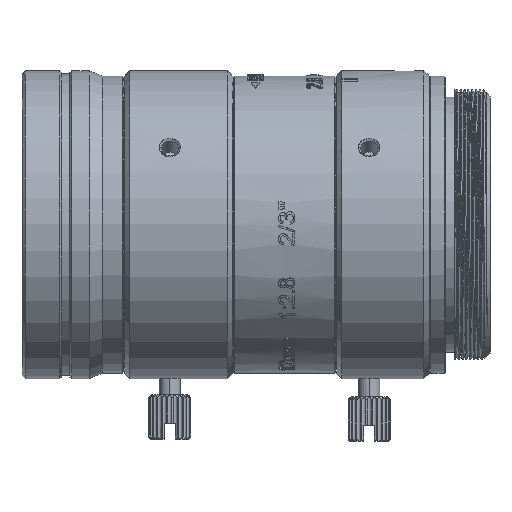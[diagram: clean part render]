
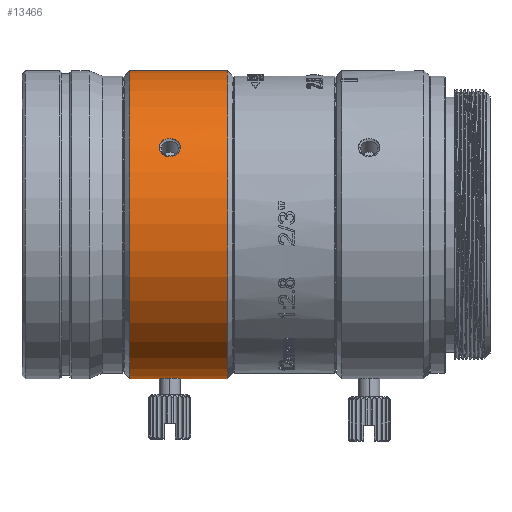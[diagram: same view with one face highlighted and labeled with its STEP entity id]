
A CAD part, top view. The second image highlights one B-rep face of the part: STEP entity #13466.
In plain terms, the highlighted cylindrical face has radius 14.5 mm (diameter 29 mm), a partial arc.
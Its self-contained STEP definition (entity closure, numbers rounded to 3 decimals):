
#11646=CARTESIAN_POINT('',(6.135,0.,0.));
#11647=DIRECTION('',(1.,0.,0.));
#11648=DIRECTION('',(0.,1.,0.));
#11649=AXIS2_PLACEMENT_3D('',#11646,#11647,#11648);
#11651=CARTESIAN_POINT('',(6.135,0.,0.));
#11652=DIRECTION('',(1.,0.,0.));
#11653=DIRECTION('',(0.,0.,1.));
#11654=AXIS2_PLACEMENT_3D('',#11651,#11652,#11653);
#11674=CARTESIAN_POINT('',(8.915,-14.5,0.));
#11688=CARTESIAN_POINT('',(10.915,-14.5,0.));
#11690=DIRECTION('',(1.,0.,0.));
#11691=VECTOR('',#11690,4.451);
#11692=CARTESIAN_POINT('',(10.915,-14.5,0.));
#11693=LINE('',#11692,#11691);
#11694=DIRECTION('',(1.,0.,0.));
#11695=VECTOR('',#11694,2.78);
#11696=CARTESIAN_POINT('',(6.135,-14.5,0.));
#11697=LINE('',#11696,#11695);
#11748=CARTESIAN_POINT('',(10.915,-14.5,0.));
#11749=CARTESIAN_POINT('',(10.915,-14.5,0.084));
#11750=CARTESIAN_POINT('',(10.893,-14.499,
0.247));
#11751=CARTESIAN_POINT('',(10.799,-14.493,
0.473));
#11752=CARTESIAN_POINT('',(10.647,-14.485,
0.676));
#11753=CARTESIAN_POINT('',(10.438,-14.476,
0.838));
#11754=CARTESIAN_POINT('',(10.197,-14.47,
0.94));
#11755=CARTESIAN_POINT('',(9.928,-14.467,
0.98));
#11756=CARTESIAN_POINT('',(9.654,-14.469,
0.946));
#11757=CARTESIAN_POINT('',(9.409,-14.475,
0.847));
#11758=CARTESIAN_POINT('',(9.197,-14.484,
0.69));
#11759=CARTESIAN_POINT('',(9.036,-14.493,
0.483));
#11760=CARTESIAN_POINT('',(8.937,-14.499,
0.249));
#11761=CARTESIAN_POINT('',(8.915,-14.5,0.085));
#11762=CARTESIAN_POINT('',(8.915,-14.5,0.));
#11764=DIRECTION('',(1.,0.,0.));
#11765=VECTOR('',#11764,9.231);
#11766=CARTESIAN_POINT('',(6.135,14.5,0.));
#11767=LINE('',#11766,#11765);
#11768=CARTESIAN_POINT('',(8.915,7.25,12.557));
#11769=CARTESIAN_POINT('',(8.915,7.176,12.6));
#11770=CARTESIAN_POINT('',(8.938,7.032,12.681));
#11771=CARTESIAN_POINT('',(9.032,6.836,12.788));
#11772=CARTESIAN_POINT('',(9.184,6.657,12.882));
#11773=CARTESIAN_POINT('',(9.394,6.511,12.956));
#11774=CARTESIAN_POINT('',(9.636,6.42,13.001));
#11775=CARTESIAN_POINT('',(9.905,6.385,13.018));
#11776=CARTESIAN_POINT('',(10.177,6.415,13.004));
#11777=CARTESIAN_POINT('',(10.421,6.504,12.96));
#11778=CARTESIAN_POINT('',(10.633,6.644,12.888));
#11779=CARTESIAN_POINT('',(10.794,6.828,12.792));
#11780=CARTESIAN_POINT('',(10.893,7.032,12.681));
#11781=CARTESIAN_POINT('',(10.915,7.176,12.6));
#11782=CARTESIAN_POINT('',(10.915,7.25,12.557));
#11784=CARTESIAN_POINT('',(10.915,7.25,12.557));
#11785=CARTESIAN_POINT('',(10.915,7.324,12.514));
#11786=CARTESIAN_POINT('',(10.893,7.466,12.431));
#11787=CARTESIAN_POINT('',(10.799,7.656,12.314));
#11788=CARTESIAN_POINT('',(10.647,7.828,12.206));
#11789=CARTESIAN_POINT('',(10.435,7.965,12.117));
#11790=CARTESIAN_POINT('',(10.196,8.049,12.061));
#11791=CARTESIAN_POINT('',(9.924,8.082,12.039));
#11792=CARTESIAN_POINT('',(9.651,8.053,12.058));
#11793=CARTESIAN_POINT('',(9.408,7.971,12.113));
#11794=CARTESIAN_POINT('',(9.197,7.839,12.199));
#11795=CARTESIAN_POINT('',(9.036,7.663,12.31));
#11796=CARTESIAN_POINT('',(8.938,7.466,12.431));
#11797=CARTESIAN_POINT('',(8.915,7.324,12.515));
#11798=CARTESIAN_POINT('',(8.915,7.25,12.557));
#11800=CARTESIAN_POINT('',(15.366,0.,0.));
#11801=DIRECTION('',(-1.,0.,0.));
#11802=DIRECTION('',(0.,-1.,0.));
#11803=AXIS2_PLACEMENT_3D('',#11800,#11801,#11802);
#11805=CARTESIAN_POINT('',(15.366,0.,0.));
#11806=DIRECTION('',(-1.,0.,0.));
#11807=DIRECTION('',(0.,0.,1.));
#11808=AXIS2_PLACEMENT_3D('',#11805,#11806,#11807);
#13115=CARTESIAN_POINT('',(6.135,14.5,0.));
#13116=VERTEX_POINT('',#13115);
#13117=CARTESIAN_POINT('',(6.135,0.,14.5));
#13118=VERTEX_POINT('',#13117);
#13119=CARTESIAN_POINT('',(6.135,-14.5,0.));
#13120=VERTEX_POINT('',#13119);
#13123=VERTEX_POINT('',#11674);
#13124=VERTEX_POINT('',#11688);
#13125=CARTESIAN_POINT('',(15.366,-14.5,
0.));
#13126=VERTEX_POINT('',#13125);
#13129=CARTESIAN_POINT('',(15.366,14.5,
0.));
#13130=VERTEX_POINT('',#13129);
#13137=CARTESIAN_POINT('',(15.366,0.,14.5));
#13138=VERTEX_POINT('',#13137);
#13139=VERTEX_POINT('',#11768);
#13140=VERTEX_POINT('',#11782);
#13443=CARTESIAN_POINT('',(-1.263,0.,0.));
#13444=DIRECTION('',(1.,0.,0.));
#13445=DIRECTION('',(0.,-1.,0.));
#13446=AXIS2_PLACEMENT_3D('',#13443,#13444,#13445);
#13447=CYLINDRICAL_SURFACE('',#13446,14.5);
#13448=ORIENTED_EDGE('',*,*,#13434,.T.);
#13449=ORIENTED_EDGE('',*,*,#13403,.F.);
#13450=ORIENTED_EDGE('',*,*,#13363,.F.);
#13451=ORIENTED_EDGE('',*,*,#13361,.F.);
#13452=ORIENTED_EDGE('',*,*,#13399,.T.);
#13454=ORIENTED_EDGE('',*,*,#13453,.F.);
#13456=ORIENTED_EDGE('',*,*,#13455,.F.);
#13457=ORIENTED_EDGE('',*,*,#13393,.F.);
#13458=EDGE_LOOP('',(#13448,#13449,#13450,#13451,#13452,#13454,#13456,#13457));
#13459=FACE_OUTER_BOUND('',#13458,.F.);
#13461=ORIENTED_EDGE('',*,*,#13460,.T.);
#13463=ORIENTED_EDGE('',*,*,#13462,.T.);
#13464=EDGE_LOOP('',(#13461,#13463));
#13465=FACE_BOUND('',#13464,.F.);
#13466=ADVANCED_FACE('',(#13459,#13465),#13447,.T.);
#11650=CIRCLE('',#11649,14.5);
#11655=CIRCLE('',#11654,14.5);
#11763=B_SPLINE_CURVE_WITH_KNOTS('',3,(#11748,#11749,#11750,#11751,#11752,
#11753,#11754,#11755,#11756,#11757,#11758,#11759,#11760,#11761,#11762),
.UNSPECIFIED.,.F.,.F.,(4,1,1,1,1,1,1,1,1,1,1,1,4),(0.,0.083,
0.167,0.25,0.333,0.417,0.5,
0.583,0.667,0.75,0.833,0.917,
1.),.UNSPECIFIED.);
#11783=B_SPLINE_CURVE_WITH_KNOTS('',3,(#11768,#11769,#11770,#11771,#11772,
#11773,#11774,#11775,#11776,#11777,#11778,#11779,#11780,#11781,#11782),
.UNSPECIFIED.,.F.,.F.,(4,1,1,1,1,1,1,1,1,1,1,1,4),(0.,0.083,
0.167,0.25,0.333,0.417,0.5,
0.583,0.667,0.75,0.833,0.917,
1.),.UNSPECIFIED.);
#11799=B_SPLINE_CURVE_WITH_KNOTS('',3,(#11784,#11785,#11786,#11787,#11788,
#11789,#11790,#11791,#11792,#11793,#11794,#11795,#11796,#11797,#11798),
.UNSPECIFIED.,.F.,.F.,(4,1,1,1,1,1,1,1,1,1,1,1,4),(0.,0.083,
0.167,0.25,0.333,0.417,0.5,
0.583,0.667,0.75,0.833,0.917,
1.),.UNSPECIFIED.);
#11804=CIRCLE('',#11803,14.5);
#11809=CIRCLE('',#11808,14.5);
#13361=EDGE_CURVE('',#13116,#13118,#11650,.T.);
#13363=EDGE_CURVE('',#13118,#13120,#11655,.T.);
#13393=EDGE_CURVE('',#13124,#13126,#11693,.T.);
#13399=EDGE_CURVE('',#13116,#13130,#11767,.T.);
#13403=EDGE_CURVE('',#13120,#13123,#11697,.T.);
#13434=EDGE_CURVE('',#13124,#13123,#11763,.T.);
#13453=EDGE_CURVE('',#13138,#13130,#11809,.T.);
#13455=EDGE_CURVE('',#13126,#13138,#11804,.T.);
#13460=EDGE_CURVE('',#13139,#13140,#11783,.T.);
#13462=EDGE_CURVE('',#13140,#13139,#11799,.T.);
